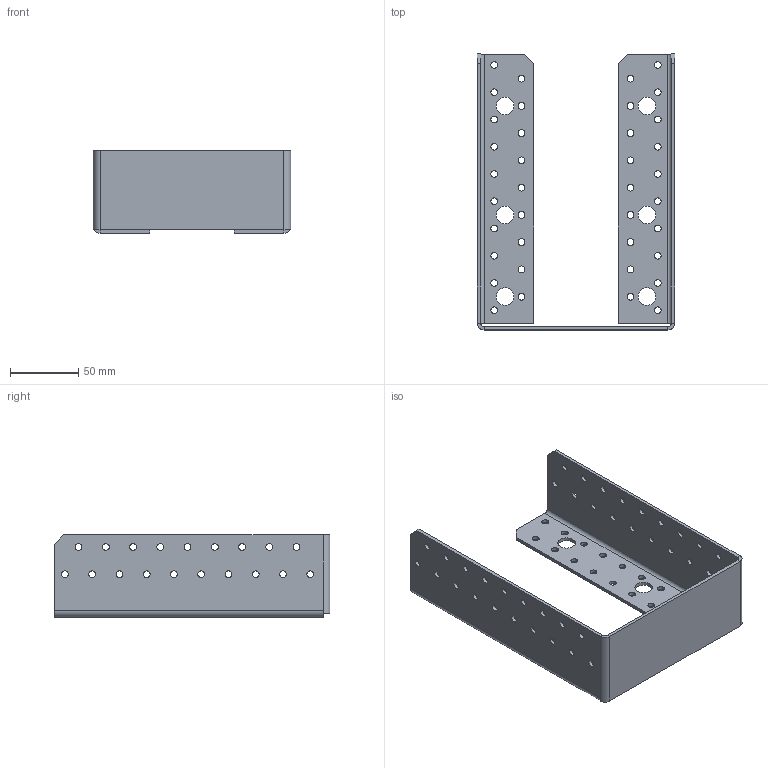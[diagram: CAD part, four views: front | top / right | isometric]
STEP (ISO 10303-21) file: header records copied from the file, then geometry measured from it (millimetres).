
FILE_DESCRIPTION (( 'STEP AP203' ), '1' );
FILE_NAME ('40513IKO.STEP', '2021-04-16T08:04:13', ( '' ), ( '' ), 'SwSTEP 2.0', 'SolidWorks 2013', '' );
FILE_SCHEMA (( 'CONFIG_CONTROL_DESIGN' ));
Length unit declared in the file: millimetre
Products named in the file (1): 40513IKO
Bounding box: 145 x 202.5 x 60.5 mm (x, y, z)
Volume: 111983.5 mm3; surface area: 96542.9 mm2
Topology: 1 solids, 1 shells, 208 faces, 588 edges, 382 vertices
Faces by surface type: cylinder 172, plane 36
Entity records: 7303 total; most frequent: DIRECTION 1352, CARTESIAN_POINT 1179, ORIENTED_EDGE 1176, EDGE_CURVE 588, AXIS2_PLACEMENT_3D 555, VERTEX_POINT 382, EDGE_LOOP 372, CIRCLE 346
